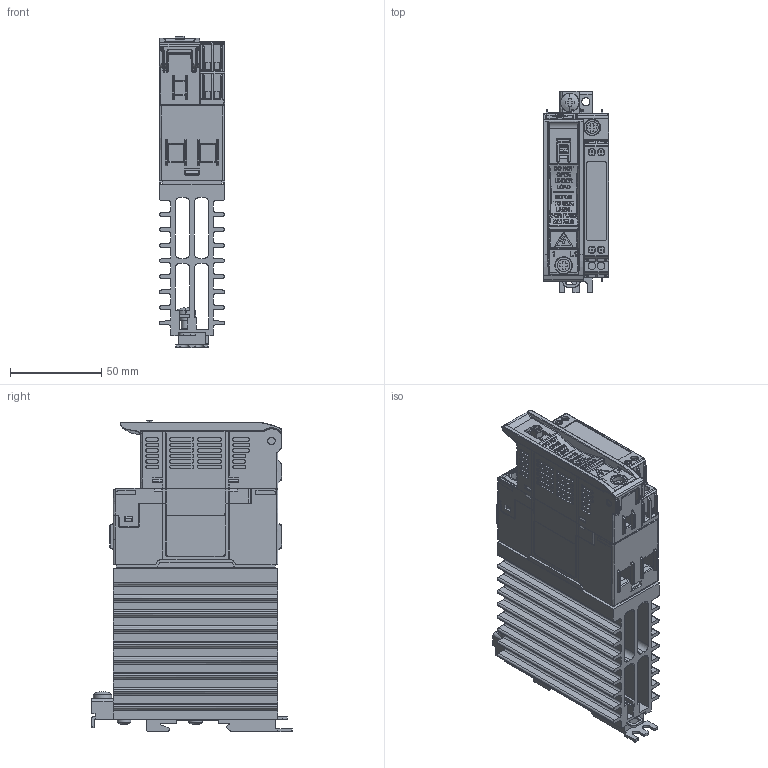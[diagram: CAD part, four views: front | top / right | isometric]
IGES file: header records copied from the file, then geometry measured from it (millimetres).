
Global section: file name: V:\RE DOCS 110324\Projects\0-Catalogue 3D-2D\RG\Metal DIN Rail Adapter Range\CGI0800-02.igs; native system: AutoCAD-17.2s (LMS Tech) (Microsoft Windows NT Version 5.2 (x64)); preprocessor: Autodesk IGES Translator Mechanical Desktop 2009 (Feb 21 2008) from Autodesk, Inc.; date: 20120821.152801; units: millimetre
Bounding box: 35.61 x 110 x 170.48 mm (x, y, z)
Surface area: 101850.3 mm2 (no closed solid volume)
Topology: 0 solids, 0 shells, 4080 faces, 23888 edges, 23787 vertices
Faces by surface type: bspline 4080
